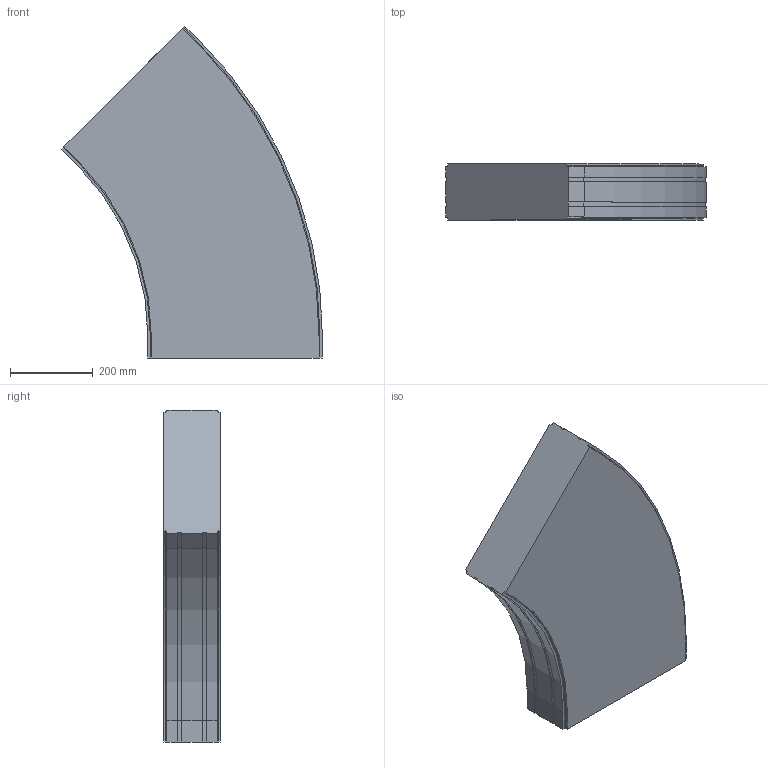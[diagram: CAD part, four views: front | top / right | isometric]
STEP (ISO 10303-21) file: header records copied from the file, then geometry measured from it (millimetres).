
FILE_DESCRIPTION (( 'STEP AP214' ), '1' );
FILE_NAME ('FS-MTC2-150-INOX horizontaalbocht.420 45°.STEP', '2017-02-08T12:40:33', ( '' ), ( '' ), 'SwSTEP 2.0', 'SolidWorks 2016', '' );
FILE_SCHEMA (( 'AUTOMOTIVE_DESIGN' ));
Length unit declared in the file: millimetre
Products named in the file (1): FS-MTC2-150-INOX horizontaalbocht.420 45°
Bounding box: 632.49 x 136.5 x 804.86 mm (x, y, z)
Volume: 42114263.2 mm3; surface area: 950109.2 mm2
Topology: 1 solids, 1 shells, 74 faces, 216 edges, 144 vertices
Faces by surface type: plane 56, cylinder 18
Entity records: 2470 total; most frequent: CARTESIAN_POINT 435, ORIENTED_EDGE 432, DIRECTION 402, EDGE_CURVE 216, LINE 180, VECTOR 180, VERTEX_POINT 144, AXIS2_PLACEMENT_3D 111
